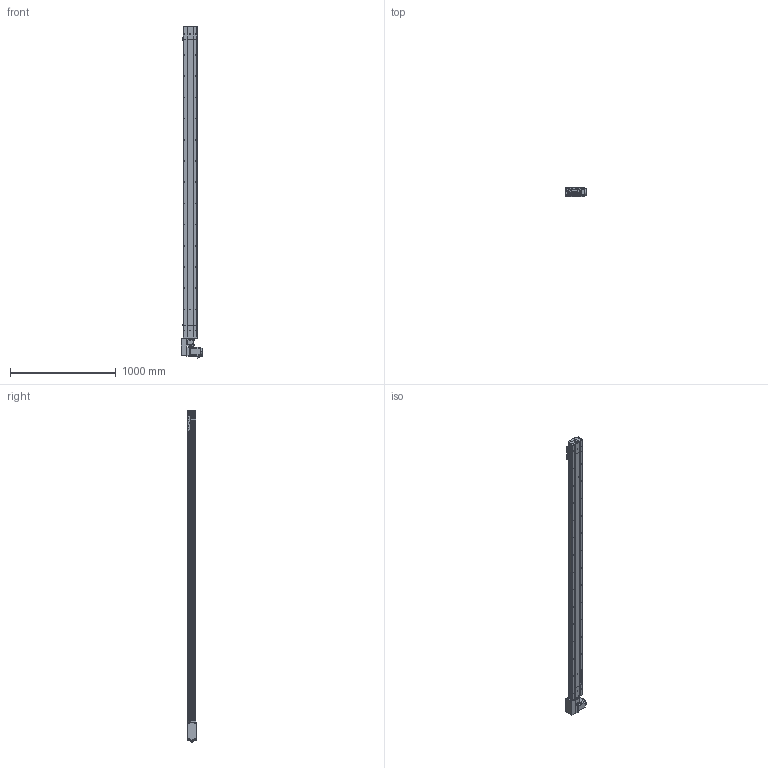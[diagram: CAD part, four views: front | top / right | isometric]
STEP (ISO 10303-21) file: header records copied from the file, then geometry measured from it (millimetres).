
FILE_DESCRIPTION (( 'STEP AP214' ), '1' );
FILE_NAME ('D14 TBH RH S2700.STEP', '2010-06-29T14:37:12', ( 'Conseil Régional Haute-Normandie' ), ( 'Conseil Régional Haute-Normandie' ), 'SwSTEP 2.0', 'SolidWorks 2010', '' );
FILE_SCHEMA (( 'AUTOMOTIVE_DESIGN' ));
Length unit declared in the file: millimetre
Products named in the file (39): avant 90BLDC100A-640; corp head D14_Default; couroie 2_Default; poulie head_Default; corps 90BLDC100A-640; tete d''axe haut D14; couvercle D14_Default; vis M5 L16_Default; Tail D14B_Default; Moteur motionking 90BLDC100A-640; D14 TB H RH_Default; Couroie_Default; Arbre+rail head D14; poulie tail_Default; vis M5 L8 90°_Default; corpl tail D14_Default; Arbre+rail tail D14; plaque de  bout head D14 RH_Default; couvercle D14 head_Default; plaque de  bout tail D14_Default; vis M5 L5_Default; Conecteur2_Default; Vis M5 L16-2_Default; Cache_Default; Chariot D14; Cvis M5 L70_Default; Conecteur_Default; Plaque racord D14_Default; vis M5 L12_Default; guide D14; renvoi RH_Default; chariot D14B_Default; codeur 90BLDC100-640; Cache arbre_Default; corpl 2700_Default; D14 TBH RH S2700; couvercle D14 course L2700_Default; Rail + couroie D14 Course 2700 ; D14 couroie L2700_Default
Assembly tree (68 placements, depth 4):
  D14 TBH RH S2700
    D14 couroie L2700_Default
      corpl 2700_Default
      couvercle D14 course L2700_Default
      Rail + couroie D14 Course 2700 
    chariot D14B_Default
      vis M5 L12_Default  x4
      guide D14  x2
      Chariot D14
    Tail D14B_Default
      vis M5 L8 90°_Default  x2
      poulie tail_Default
      vis M5 L12_Default  x4
      couvercle D14_Default
      tete d''axe haut D14
      corpl tail D14_Default
      Couroie_Default
      plaque de  bout tail D14_Default
      vis M5 L16_Default  x2
      Arbre+rail tail D14
    D14 TB H RH_Default
      Cache_Default  x2
      Cvis M5 L70_Default  x4
      vis M5 L12_Default  x12
      vis M5 L5_Default  x2
      Vis M5 L16-2_Default  x4
      Moteur motionking 90BLDC100A-640
        Conecteur2_Default
        avant 90BLDC100A-640
        corps 90BLDC100A-640
        Conecteur_Default
        codeur 90BLDC100-640
      renvoi RH_Default
      couvercle D14 head_Default
      corp head D14_Default
      Cache arbre_Default
      plaque de  bout head D14 RH_Default
      Arbre+rail head D14
      couroie 2_Default
      poulie head_Default
      Plaque racord D14_Default
Bounding box: 207.2 x 85.9 x 3132.45 mm (x, y, z)
Volume: 11251137.7 mm3; surface area: 4082905.9 mm2
Topology: 92 solids, 92 shells, 2741 faces, 6683 edges, 4314 vertices
Faces by surface type: plane 1617, cylinder 811, bspline 136, torus 89, cone 84, sphere 4
Entity records: 82448 total; most frequent: CARTESIAN_POINT 24077, ORIENTED_EDGE 10226, DIRECTION 10140, EDGE_CURVE 5113, AXIS2_PLACEMENT_3D 3391, VERTEX_POINT 3364, VECTOR 3358, LINE 3358
